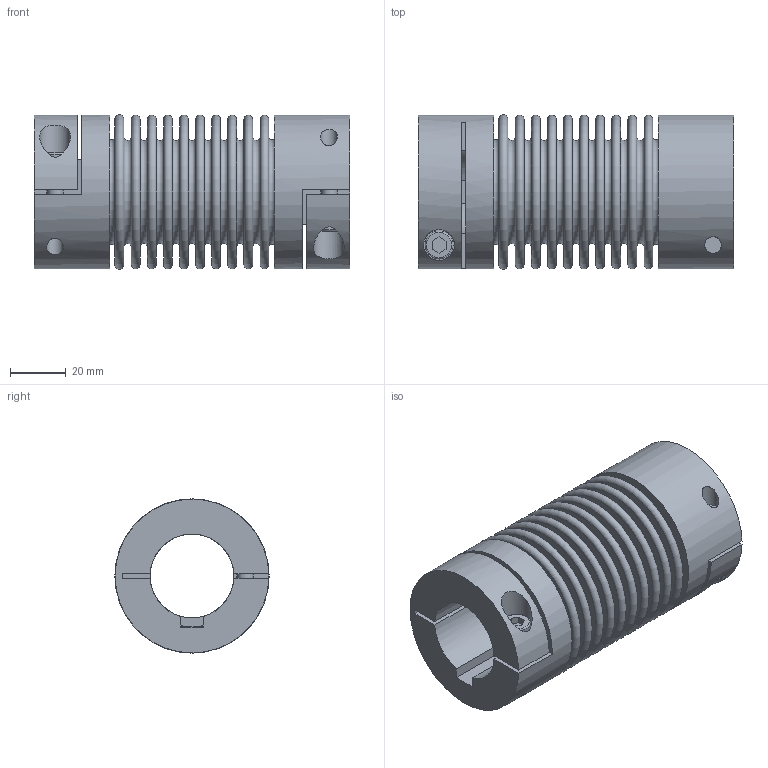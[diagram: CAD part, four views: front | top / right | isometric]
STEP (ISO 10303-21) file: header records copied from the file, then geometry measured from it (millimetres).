
FILE_DESCRIPTION(/* description */ ('STEP AP214'),/* implementation_level */ '2;1');
FILE_NAME(/* name */ 'C:\Diequa Files\DieQua Coupling\Website Step Files\BC.30.113.#.#.stp',/* time_stamp */ '2018-10-25T16:20:21-05:00',/* author */ ('DiequaCAD'),/* organization */ (''),/* preprocessor_version */ 'ST-DEVELOPER v17.2',/* originating_system */ 'Autodesk Inventor 2019',/* authorisation */ ' ');
FILE_SCHEMA (('AUTOMOTIVE_DESIGN { 1 0 10303 214 3 1 1 }'));
Length unit declared in the file: millimetre
Products named in the file (1): BC2.30.113.#.#
Bounding box: 113 x 55.19 x 55.19 mm (x, y, z)
Volume: 89686.1 mm3; surface area: 88841.6 mm2
Topology: 1 solids, 1 shells, 147 faces, 363 edges, 267 vertices
Faces by surface type: plane 89, torus 44, cylinder 14
Full cylindrical faces by diameter (mm): 6 x4, 10 x2, 11 x2, 55 x2
Entity records: 4802 total; most frequent: CARTESIAN_POINT 929, DIRECTION 898, ORIENTED_EDGE 726, AXIS2_PLACEMENT_3D 394, EDGE_CURVE 363, VERTEX_POINT 267, CIRCLE 246, EDGE_LOOP 202
